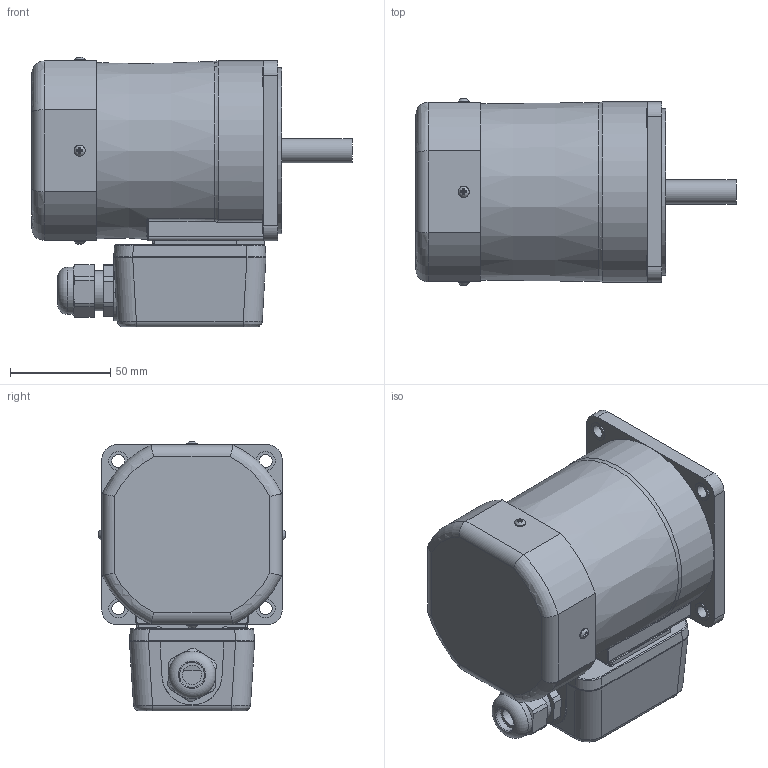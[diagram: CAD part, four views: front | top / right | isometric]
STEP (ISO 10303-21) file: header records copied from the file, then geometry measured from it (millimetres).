
FILE_DESCRIPTION((''),'2;1');
FILE_NAME('D:\김성묵\업무폴더\개발 파일\프로젝트 개발 AB등급\AC표준형 개발자료\90각 이하 표준형 개발\도면작성 자료\3D 도면\홈페이지용 3D 파일\60W MOTOR\T BOX TYPE\S9(I,R)60S-T.stp','2015-03-26T18:28:21',('smkim'),(''),'Autodesk Inventor 2012','Autodesk Inventor 2012','');
FILE_SCHEMA(('AUTOMOTIVE_DESIGN { 1 0 10303 214 1 1 1 1 }'));
Length unit declared in the file: millimetre
Products named in the file (7): S9(I,R)60S-T; S9I60GㅁTCE; FAN COVER; 552300620; 25W_T_BOX; S9I60S
Assembly tree (9 placements, depth 3):
  S9(I,R)60S-T
    S9I60GㅁTCE
    FAN COVER
      FAN COVER
      552300620  x4
    25W_T_BOX
    S9I60S
Bounding box: 159.8 x 93.49 x 134.75 mm (x, y, z)
Volume: 1086729.4 mm3; surface area: 114012.7 mm2
Topology: 8 solids, 15 shells, 494 faces, 1183 edges, 754 vertices
Faces by surface type: plane 262, cylinder 134, bspline 53, torus 33, cone 12
Full cylindrical faces by diameter (mm): 2.55 x2, 3 x8, 3.5 x4, 5.6 x8, 6.3 x4, 6.5 x4, 7 x1, 9 x1, 9.5 x4, 12 x1, 12.5 x1, 15 x1, 20 x2, 21 x1, 23.6 x1, 40 x1, 83 x1, 86 x1
Entity records: 14570 total; most frequent: CARTESIAN_POINT 4573, DIRECTION 1900, ORIENTED_EDGE 1898, EDGE_CURVE 949, AXIS2_PLACEMENT_3D 704, VERTEX_POINT 644, EDGE_LOOP 543, VECTOR 492
